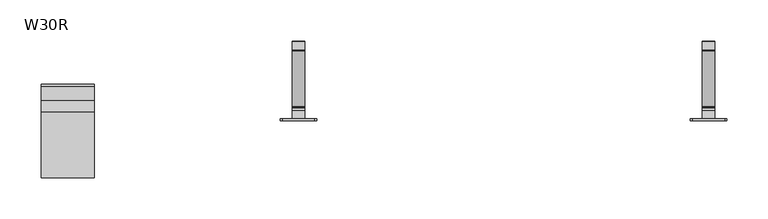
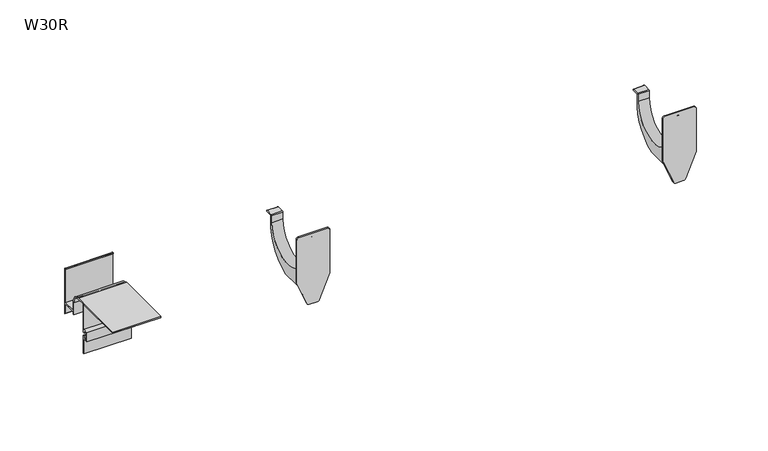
"""IFC4 building model written with IfcOpenShell, lengths in millimetres: proxy geometry, W30R Profil okapowy prosty z rynną : W30R."""

from ifc_helpers import new_model, si_unit, point, frame, frame_2d, origin, place, context, project, spatial, polyline, circle_curve, trimmed, segment, composite_curve, outline, extrude, source, transform, mapped, element, save
from ifc_brep_helpers import plane_surface, cylinder_surface, revolved_surface, advanced_brep


def w30r_580a4935(model_context):
    return source(origin(), model_context, "Body", "SolidModel", [
        advanced_brep(
        [(806.4889281, 43.253125, -67.3579557), (806.4889281, 43.253125, -57.4654849), (806.4889281, 44.253125, -56.4654849), (806.4889281, 54.253125, -56.4654849), (806.4889281, 54.253125, -58.4654849), (806.4889281, 45.753125, -58.4654849), (806.4889281, 45.753125, -62.0548341), (806.4889281, 45.753125, -76.6748546), (806.4889281, 11.253125, -121.4654849), (806.4889281, -39.746875, -121.4650625), (806.4889281, -39.746875, -46.4650625), (806.4889281, -29.746875, -46.4650625), (806.4889281, -26.9184479, -47.6366354), (806.4889281, -25.5042343, -49.0508489), (806.4889281, -26.9184479, -50.4650625), (806.4889281, -28.3326614, -49.0508489), (806.4889281, -33.746875, -48.4650699), (806.4889281, -31.746875, -67.3579557), (821.4889281, 43.253125, -67.3579557), (821.4889281, -31.746875, -67.3579557), (821.4889281, -33.746875, -48.4650699), (821.4889281, -28.3326614, -49.0508489), (821.4889281, -26.9184479, -50.4650625), (821.4889281, -25.5042343, -49.0508489), (821.4889281, -26.9184479, -47.6366354), (821.4889281, -29.746875, -46.4650625), (821.4889281, -39.746875, -46.4650625), (821.4889281, -39.746875, -121.4650625), (821.4889281, 11.253125, -121.4654849), (821.4889281, 45.753125, -76.6748546), (821.4889281, 45.753125, -62.0548341), (821.4889281, 45.753125, -58.4654849), (821.4889281, 54.253125, -58.4654849), (821.4889281, 54.253125, -56.4654849), (821.4889281, 44.253125, -56.4654849), (821.4889281, 43.253125, -57.4654849), (833.4889281, -39.746875, -33.4650625), (836.4889281, -39.746875, -36.4650625), (836.4889281, -39.746875, -98.4650625), (822.2581588, -39.746875, -132.6189087), (819.4889281, -39.746875, -134.4650625), (808.4889281, -39.746875, -134.4650625), (805.7196973, -39.746875, -132.6189087), (791.4889281, -39.746875, -98.4650625), (791.4889281, -39.746875, -36.4650625), (794.4889281, -39.746875, -33.4650625), (833.4889281, -41.746875, -33.4650625), (794.4889281, -41.746875, -33.4650625), (791.4889281, -41.746875, -36.4650625), (791.4889281, -41.746875, -98.4650625), (805.7196973, -41.746875, -132.6189087), (808.4889281, -41.746875, -134.4650625), (819.4889281, -41.746875, -134.4650625), (822.2581588, -41.746875, -132.6189087), (836.4889281, -41.746875, -98.4650625), (836.4889281, -41.746875, -36.4650625)],
        [
            (0, 1),
            (1, 2, circle_curve(frame((806.4889281, 44.253125, -57.4654849), z_axis=(-1.0, 0.0, 0.0), x_axis=(0.0, 1.0, 0.0)), 1.0)),
            (2, 3),
            (3, 4, circle_curve(frame((806.4889281, 54.253125, -57.4654849), z_axis=(-1.0, 0.0, 0.0), x_axis=(0.0, 1.0, 0.0)), 1.0)),
            (4, 5),
            (5, 6),
            (6, 7),
            (7, 8, circle_curve(frame((806.4889281, -6.9272146, -71.7799373), z_axis=(-1.0, 0.0, 0.0), x_axis=(0.0, 1.0, 0.0)), 52.9072622)),
            (8, 9),
            (9, 10),
            (10, 11),
            (11, 12, circle_curve(frame((806.4889281, -29.746875, -50.4650625), z_axis=(-1.0, 0.0, 0.0), x_axis=(0.0, 1.0, 0.0)), 4.0)),
            (12, 13),
            (13, 14, circle_curve(frame((806.4889281, -26.2113411, -49.7579557), z_axis=(-1.0, 0.0, 0.0), x_axis=(0.0, 1.0, 0.0)), 1.0)),
            (14, 15),
            (15, 16, circle_curve(frame((806.4889281, -32.9075381, -66.0213045), z_axis=(1.0, 0.0, 0.0), x_axis=(0.0, 1.0, 0.0)), 17.5762868)),
            (16, 17),
            (17, 0, circle_curve(frame((806.4889281, 5.753125, -67.3579557), z_axis=(1.0, 0.0, 0.0), x_axis=(0.0, 1.0, 0.0)), 37.5)),
            (18, 19, circle_curve(frame((821.4889281, 5.753125, -67.3579557), z_axis=(-1.0, 0.0, 0.0), x_axis=(0.0, 1.0, 0.0)), 37.5)),
            (19, 20),
            (20, 21, circle_curve(frame((821.4889281, -32.9075381, -66.0213045), z_axis=(-1.0, 0.0, 0.0), x_axis=(0.0, 1.0, 0.0)), 17.5762868)),
            (21, 22),
            (22, 23, circle_curve(frame((821.4889281, -26.2113411, -49.7579557), z_axis=(1.0, 0.0, 0.0), x_axis=(0.0, 1.0, 0.0)), 1.0)),
            (23, 24),
            (24, 25, circle_curve(frame((821.4889281, -29.746875, -50.4650625), z_axis=(1.0, 0.0, 0.0), x_axis=(0.0, 1.0, 0.0)), 4.0)),
            (25, 26),
            (26, 27),
            (27, 28),
            (28, 29, circle_curve(frame((821.4889281, -6.9272146, -71.7799373), z_axis=(1.0, 0.0, 0.0), x_axis=(0.0, 1.0, 0.0)), 52.9072622)),
            (29, 30),
            (30, 31),
            (31, 32),
            (32, 33, circle_curve(frame((821.4889281, 54.253125, -57.4654849), z_axis=(1.0, 0.0, 0.0), x_axis=(0.0, 1.0, 0.0)), 1.0)),
            (33, 34),
            (34, 35, circle_curve(frame((821.4889281, 44.253125, -57.4654849), z_axis=(1.0, 0.0, 0.0), x_axis=(0.0, 1.0, 0.0)), 1.0)),
            (35, 18),
            (0, 18),
            (35, 1),
            (34, 2),
            (33, 3),
            (32, 4),
            (31, 5),
            (30, 6),
            (29, 7),
            (28, 8),
            (27, 9),
            (10, 26),
            (25, 11),
            (24, 12),
            (23, 13),
            (22, 14),
            (21, 15),
            (20, 16),
            (19, 17),
            (36, 37, circle_curve(frame((833.4889281, -39.746875, -36.4650625), z_axis=(0.0, 1.0, 0.0), x_axis=(1.0, 0.0, 0.0)), 3.0)),
            (37, 38),
            (38, 39),
            (39, 40, circle_curve(frame((819.4889281, -39.746875, -131.4650625), z_axis=(0.0, 1.0, 0.0), x_axis=(1.0, 0.0, 0.0)), 3.0)),
            (40, 41),
            (41, 42, circle_curve(frame((808.4889281, -39.746875, -131.4650625), z_axis=(0.0, 1.0, 0.0), x_axis=(1.0, 0.0, 0.0)), 3.0)),
            (42, 43),
            (43, 44),
            (44, 45, circle_curve(frame((794.4889281, -39.746875, -36.4650625), z_axis=(0.0, 1.0, 0.0), x_axis=(1.0, 0.0, 0.0)), 3.0)),
            (45, 36),
            (46, 47),
            (47, 48, circle_curve(frame((794.4889281, -41.746875, -36.4650625), z_axis=(0.0, -1.0, 0.0), x_axis=(1.0, 0.0, 0.0)), 3.0)),
            (48, 49),
            (49, 50),
            (50, 51, circle_curve(frame((808.4889281, -41.746875, -131.4650625), z_axis=(0.0, -1.0, 0.0), x_axis=(1.0, 0.0, 0.0)), 3.0)),
            (51, 52),
            (52, 53, circle_curve(frame((819.4889281, -41.746875, -131.4650625), z_axis=(0.0, -1.0, 0.0), x_axis=(1.0, 0.0, 0.0)), 3.0)),
            (53, 54),
            (54, 55),
            (55, 46, circle_curve(frame((833.4889281, -41.746875, -36.4650625), z_axis=(0.0, -1.0, 0.0), x_axis=(1.0, 0.0, 0.0)), 3.0)),
            (45, 47),
            (46, 36),
            (44, 48),
            (43, 49),
            (42, 50),
            (41, 51),
            (40, 52),
            (39, 53),
            (38, 54),
            (37, 55),
        ],
        [
            plane_surface(frame((806.4889281, 43.253125, -57.4654849), z_axis=(-1.0, 0.0, 0.0), x_axis=(0.0, 0.0, -1.0))),
            plane_surface(frame((821.4889281, 43.253125, -57.4654849), z_axis=(1.0, 0.0, 0.0), x_axis=(0.0, 0.0, 1.0))),
            plane_surface(frame((821.4889281, 43.253125, -67.3579557), z_axis=(0.0, -1.0, 0.0), x_axis=(-1.0, 0.0, 0.0))),
            cylinder_surface(frame((806.4889281, 44.253125, -57.4654849), z_axis=(1.0, 0.0, 0.0), x_axis=(0.0, 1.0, 0.0)), 1.0),
            plane_surface(frame((821.4889281, 44.253125, -56.4654849), z_axis=(0.0, 0.0, 1.0), x_axis=(-1.0, 0.0, 0.0))),
            cylinder_surface(frame((806.4889281, 54.253125, -57.4654849), z_axis=(1.0, 0.0, 0.0), x_axis=(0.0, 1.0, 0.0)), 1.0),
            plane_surface(frame((821.4889281, 54.253125, -58.4654849), z_axis=(0.0, 0.0, -1.0), x_axis=(-1.0, 0.0, 0.0))),
            plane_surface(frame((821.4889281, 45.753125, -58.4654849), z_axis=(0.0, 1.0, 0.0), x_axis=(-1.0, 0.0, 0.0))),
            plane_surface(frame((821.4889281, 45.753125, -62.0548341), z_axis=(0.0, 1.0, 0.0), x_axis=(-1.0, 0.0, 0.0))),
            cylinder_surface(frame((806.4889281, -6.9272146, -71.7799373), z_axis=(1.0, 0.0, 0.0), x_axis=(0.0, 1.0, 0.0)), 52.9072622),
            plane_surface(frame((821.4889281, 11.253125, -121.4654849), z_axis=(0.0, -8.283194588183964e-06, -0.9999999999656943), x_axis=(-1.0, 0.0, 0.0))),
            plane_surface(frame((821.4889281, -40.7901639, -46.4650625), z_axis=(0.0, 0.0, 1.0), x_axis=(-1.0, 0.0, 0.0))),
            cylinder_surface(frame((806.4889281, -29.746875, -50.4650625), z_axis=(1.0, 0.0, 0.0), x_axis=(0.0, 1.0, 0.0)), 4.0),
            plane_surface(frame((821.4889281, -26.9184479, -47.6366354), z_axis=(0.0, 0.7071067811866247, 0.7071067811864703), x_axis=(-1.0, 0.0, 0.0))),
            cylinder_surface(frame((806.4889281, -26.2113411, -49.7579557), z_axis=(1.0, 0.0, 0.0), x_axis=(0.0, 1.0, 0.0)), 1.0),
            plane_surface(frame((821.4889281, -26.9184479, -50.4650625), z_axis=(0.0, -0.7071067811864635, -0.7071067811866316), x_axis=(-1.0, 0.0, 0.0))),
            revolved_surface(polyline([(806.4889281, -15.331251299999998, -66.0213045), (821.4889281, -15.331251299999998, -66.0213045)]), (806.4889281, -32.9075381, -66.0213045), (-1.0, 0.0, 0.0)),
            plane_surface(frame((821.4889281, -33.746875, -48.4650699), z_axis=(0.0, 0.9944434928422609, 0.10527174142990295), x_axis=(-1.0, 0.0, 0.0))),
            revolved_surface(polyline([(806.4889281, 43.253125, -67.3579557), (821.4889281, 43.253125, -67.3579557)]), (806.4889281, 5.753125, -67.3579557), (-1.0, 0.0, 0.0)),
            plane_surface(frame((794.4889281, -39.746875, -33.4650625), z_axis=(0.0, 1.0, 0.0), x_axis=(-1.0, 0.0, 0.0))),
            plane_surface(frame((794.4889281, -41.746875, -33.4650625), z_axis=(0.0, -1.0, 0.0), x_axis=(1.0, 0.0, 0.0))),
            plane_surface(frame((833.4889281, -39.746875, -33.4650625), z_axis=(0.0, 0.0, 1.0), x_axis=(0.0, -1.0, 0.0))),
            cylinder_surface(frame((794.4889281, -41.746875, -36.4650625), z_axis=(0.0, 1.0, 0.0), x_axis=(1.0, 0.0, 0.0)), 3.0),
            plane_surface(frame((791.4889281, -39.746875, -36.4650625), z_axis=(-1.0, 0.0, 0.0), x_axis=(0.0, -1.0, 0.0))),
            plane_surface(frame((791.4889281, -39.746875, -98.4650625), z_axis=(-0.9230769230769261, 0.0, -0.38461538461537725), x_axis=(0.0, -1.0, 0.0))),
            cylinder_surface(frame((808.4889281, -41.746875, -131.4650625), z_axis=(0.0, 1.0, 0.0), x_axis=(1.0, 0.0, 0.0)), 3.0),
            plane_surface(frame((808.4889281, -39.746875, -134.4650625), z_axis=(0.0, 0.0, -1.0), x_axis=(0.0, -1.0, 0.0))),
            cylinder_surface(frame((819.4889281, -41.746875, -131.4650625), z_axis=(0.0, 1.0, 0.0), x_axis=(1.0, 0.0, 0.0)), 3.0),
            plane_surface(frame((822.2581588, -39.746875, -132.6189087), z_axis=(0.9230769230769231, 0.0, -0.3846153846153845), x_axis=(0.0, -1.0, 0.0))),
            plane_surface(frame((836.4889281, -39.746875, -98.4650625), z_axis=(1.0, 0.0, 0.0), x_axis=(0.0, -1.0, 0.0))),
            cylinder_surface(frame((833.4889281, -41.746875, -36.4650625), z_axis=(0.0, 1.0, 0.0), x_axis=(1.0, 0.0, 0.0)), 3.0),
        ],
        [
            (0, [[1, 2, 3, 4, 5, 6, 7, 8, 9, 10, 11, 12, 13, 14, 15, 16, 17, 18]]),
            (1, [[19, 20, 21, 22, 23, 24, 25, 26, 27, 28, 29, 30, 31, 32, 33, 34, 35, 36]]),
            (2, [[37, -36, 38, -1]]),
            (3, [[-38, -35, 39, -2]]),
            (4, [[-39, -34, 40, -3]]),
            (5, [[-40, -33, 41, -4]]),
            (6, [[-41, -32, 42, -5]]),
            (7, [[-42, -31, 43, -6]]),
            (8, [[-43, -30, 44, -7]]),
            (9, [[-44, -29, 45, -8]]),
            (10, [[-28, 46, -9, -45]]),
            (11, [[-11, 47, -26, 48]]),
            (12, [[-48, -25, 49, -12]]),
            (13, [[-49, -24, 50, -13]]),
            (14, [[-50, -23, 51, -14]]),
            (15, [[-51, -22, 52, -15]]),
            (16, [[-52, -21, 53, -16]]),
            (17, [[-53, -20, 54, -17]]),
            (18, [[-54, -19, -37, -18]]),
            (19, [[55, 56, 57, 58, 59, 60, 61, 62, 63, 64], [-46, -27, -47, -10]]),
            (20, [[65, 66, 67, 68, 69, 70, 71, 72, 73, 74]]),
            (21, [[75, -65, 76, -64]]),
            (22, [[77, -66, -75, -63]]),
            (23, [[78, -67, -77, -62]]),
            (24, [[79, -68, -78, -61]]),
            (25, [[80, -69, -79, -60]]),
            (26, [[81, -70, -80, -59]]),
            (27, [[82, -71, -81, -58]]),
            (28, [[83, -72, -82, -57]]),
            (29, [[84, -73, -83, -56]]),
            (30, [[-76, -74, -84, -55]]),
        ],
    ),
        advanced_brep(
        [(306.4889281, 43.253125, -67.3579557), (306.4889281, 43.253125, -57.4654849), (306.4889281, 44.253125, -56.4654849), (306.4889281, 54.253125, -56.4654849), (306.4889281, 54.253125, -58.4654849), (306.4889281, 45.753125, -58.4654849), (306.4889281, 45.753125, -62.0548341), (306.4889281, 45.753125, -76.6748546), (306.4889281, 11.253125, -121.4654849), (306.4889281, -39.746875, -121.4650625), (306.4889281, -39.746875, -46.4650625), (306.4889281, -29.746875, -46.4650625), (306.4889281, -26.9184479, -47.6366354), (306.4889281, -25.5042343, -49.0508489), (306.4889281, -26.9184479, -50.4650625), (306.4889281, -28.3326614, -49.0508489), (306.4889281, -33.746875, -48.4650699), (306.4889281, -31.746875, -67.3579557), (321.4889281, 43.253125, -67.3579557), (321.4889281, -31.746875, -67.3579557), (321.4889281, -33.746875, -48.4650699), (321.4889281, -28.3326614, -49.0508489), (321.4889281, -26.9184479, -50.4650625), (321.4889281, -25.5042343, -49.0508489), (321.4889281, -26.9184479, -47.6366354), (321.4889281, -29.746875, -46.4650625), (321.4889281, -39.746875, -46.4650625), (321.4889281, -39.746875, -121.4650625), (321.4889281, 11.253125, -121.4654849), (321.4889281, 45.753125, -76.6748546), (321.4889281, 45.753125, -62.0548341), (321.4889281, 45.753125, -58.4654849), (321.4889281, 54.253125, -58.4654849), (321.4889281, 54.253125, -56.4654849), (321.4889281, 44.253125, -56.4654849), (321.4889281, 43.253125, -57.4654849), (333.4889281, -39.746875, -33.4650625), (336.4889281, -39.746875, -36.4650625), (336.4889281, -39.746875, -98.4650625), (322.2581588, -39.746875, -132.6189087), (319.4889281, -39.746875, -134.4650625), (308.4889281, -39.746875, -134.4650625), (305.7196973, -39.746875, -132.6189087), (291.4889281, -39.746875, -98.4650625), (291.4889281, -39.746875, -36.4650625), (294.4889281, -39.746875, -33.4650625), (333.4889281, -41.746875, -33.4650625), (294.4889281, -41.746875, -33.4650625), (291.4889281, -41.746875, -36.4650625), (291.4889281, -41.746875, -98.4650625), (305.7196973, -41.746875, -132.6189087), (308.4889281, -41.746875, -134.4650625), (319.4889281, -41.746875, -134.4650625), (322.2581588, -41.746875, -132.6189087), (336.4889281, -41.746875, -98.4650625), (336.4889281, -41.746875, -36.4650625)],
        [
            (0, 1),
            (1, 2, circle_curve(frame((306.4889281, 44.253125, -57.4654849), z_axis=(-1.0, 0.0, 0.0), x_axis=(0.0, 1.0, 0.0)), 1.0)),
            (2, 3),
            (3, 4, circle_curve(frame((306.4889281, 54.253125, -57.4654849), z_axis=(-1.0, 0.0, 0.0), x_axis=(0.0, 1.0, 0.0)), 1.0)),
            (4, 5),
            (5, 6),
            (6, 7),
            (7, 8, circle_curve(frame((306.4889281, -6.9272146, -71.7799373), z_axis=(-1.0, 0.0, 0.0), x_axis=(0.0, 1.0, 0.0)), 52.9072622)),
            (8, 9),
            (9, 10),
            (10, 11),
            (11, 12, circle_curve(frame((306.4889281, -29.746875, -50.4650625), z_axis=(-1.0, 0.0, 0.0), x_axis=(0.0, 1.0, 0.0)), 4.0)),
            (12, 13),
            (13, 14, circle_curve(frame((306.4889281, -26.2113411, -49.7579557), z_axis=(-1.0, 0.0, 0.0), x_axis=(0.0, 1.0, 0.0)), 1.0)),
            (14, 15),
            (15, 16, circle_curve(frame((306.4889281, -32.9075381, -66.0213045), z_axis=(1.0, 0.0, 0.0), x_axis=(0.0, 1.0, 0.0)), 17.5762868)),
            (16, 17),
            (17, 0, circle_curve(frame((306.4889281, 5.753125, -67.3579557), z_axis=(1.0, 0.0, 0.0), x_axis=(0.0, 1.0, 0.0)), 37.5)),
            (18, 19, circle_curve(frame((321.4889281, 5.753125, -67.3579557), z_axis=(-1.0, 0.0, 0.0), x_axis=(0.0, 1.0, 0.0)), 37.5)),
            (19, 20),
            (20, 21, circle_curve(frame((321.4889281, -32.9075381, -66.0213045), z_axis=(-1.0, 0.0, 0.0), x_axis=(0.0, 1.0, 0.0)), 17.5762868)),
            (21, 22),
            (22, 23, circle_curve(frame((321.4889281, -26.2113411, -49.7579557), z_axis=(1.0, 0.0, 0.0), x_axis=(0.0, 1.0, 0.0)), 1.0)),
            (23, 24),
            (24, 25, circle_curve(frame((321.4889281, -29.746875, -50.4650625), z_axis=(1.0, 0.0, 0.0), x_axis=(0.0, 1.0, 0.0)), 4.0)),
            (25, 26),
            (26, 27),
            (27, 28),
            (28, 29, circle_curve(frame((321.4889281, -6.9272146, -71.7799373), z_axis=(1.0, 0.0, 0.0), x_axis=(0.0, 1.0, 0.0)), 52.9072622)),
            (29, 30),
            (30, 31),
            (31, 32),
            (32, 33, circle_curve(frame((321.4889281, 54.253125, -57.4654849), z_axis=(1.0, 0.0, 0.0), x_axis=(0.0, 1.0, 0.0)), 1.0)),
            (33, 34),
            (34, 35, circle_curve(frame((321.4889281, 44.253125, -57.4654849), z_axis=(1.0, 0.0, 0.0), x_axis=(0.0, 1.0, 0.0)), 1.0)),
            (35, 18),
            (0, 18),
            (35, 1),
            (34, 2),
            (33, 3),
            (32, 4),
            (31, 5),
            (30, 6),
            (29, 7),
            (28, 8),
            (27, 9),
            (10, 26),
            (25, 11),
            (24, 12),
            (23, 13),
            (22, 14),
            (21, 15),
            (20, 16),
            (19, 17),
            (36, 37, circle_curve(frame((333.4889281, -39.746875, -36.4650625), z_axis=(0.0, 1.0, 0.0), x_axis=(1.0, 0.0, 0.0)), 3.0)),
            (37, 38),
            (38, 39),
            (39, 40, circle_curve(frame((319.4889281, -39.746875, -131.4650625), z_axis=(0.0, 1.0, 0.0), x_axis=(1.0, 0.0, 0.0)), 3.0)),
            (40, 41),
            (41, 42, circle_curve(frame((308.4889281, -39.746875, -131.4650625), z_axis=(0.0, 1.0, 0.0), x_axis=(1.0, 0.0, 0.0)), 3.0)),
            (42, 43),
            (43, 44),
            (44, 45, circle_curve(frame((294.4889281, -39.746875, -36.4650625), z_axis=(0.0, 1.0, 0.0), x_axis=(1.0, 0.0, 0.0)), 3.0)),
            (45, 36),
            (46, 47),
            (47, 48, circle_curve(frame((294.4889281, -41.746875, -36.4650625), z_axis=(0.0, -1.0, 0.0), x_axis=(1.0, 0.0, 0.0)), 3.0)),
            (48, 49),
            (49, 50),
            (50, 51, circle_curve(frame((308.4889281, -41.746875, -131.4650625), z_axis=(0.0, -1.0, 0.0), x_axis=(1.0, 0.0, 0.0)), 3.0)),
            (51, 52),
            (52, 53, circle_curve(frame((319.4889281, -41.746875, -131.4650625), z_axis=(0.0, -1.0, 0.0), x_axis=(1.0, 0.0, 0.0)), 3.0)),
            (53, 54),
            (54, 55),
            (55, 46, circle_curve(frame((333.4889281, -41.746875, -36.4650625), z_axis=(0.0, -1.0, 0.0), x_axis=(1.0, 0.0, 0.0)), 3.0)),
            (45, 47),
            (46, 36),
            (44, 48),
            (43, 49),
            (42, 50),
            (41, 51),
            (40, 52),
            (39, 53),
            (38, 54),
            (37, 55),
        ],
        [
            plane_surface(frame((306.4889281, 43.253125, -57.4654849), z_axis=(-1.0, 0.0, 0.0), x_axis=(0.0, 0.0, -1.0))),
            plane_surface(frame((321.4889281, 43.253125, -57.4654849), z_axis=(1.0, 0.0, 0.0), x_axis=(0.0, 0.0, 1.0))),
            plane_surface(frame((321.4889281, 43.253125, -67.3579557), z_axis=(0.0, -1.0, 0.0), x_axis=(-1.0, 0.0, 0.0))),
            cylinder_surface(frame((306.4889281, 44.253125, -57.4654849), z_axis=(1.0, 0.0, 0.0), x_axis=(0.0, 1.0, 0.0)), 1.0),
            plane_surface(frame((321.4889281, 44.253125, -56.4654849), z_axis=(0.0, 0.0, 1.0), x_axis=(-1.0, 0.0, 0.0))),
            cylinder_surface(frame((306.4889281, 54.253125, -57.4654849), z_axis=(1.0, 0.0, 0.0), x_axis=(0.0, 1.0, 0.0)), 1.0),
            plane_surface(frame((321.4889281, 54.253125, -58.4654849), z_axis=(0.0, 0.0, -1.0), x_axis=(-1.0, 0.0, 0.0))),
            plane_surface(frame((321.4889281, 45.753125, -58.4654849), z_axis=(0.0, 1.0, 0.0), x_axis=(-1.0, 0.0, 0.0))),
            plane_surface(frame((321.4889281, 45.753125, -62.0548341), z_axis=(0.0, 1.0, 0.0), x_axis=(-1.0, 0.0, 0.0))),
            cylinder_surface(frame((306.4889281, -6.9272146, -71.7799373), z_axis=(1.0, 0.0, 0.0), x_axis=(0.0, 1.0, 0.0)), 52.9072622),
            plane_surface(frame((321.4889281, 11.253125, -121.4654849), z_axis=(0.0, -8.283194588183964e-06, -0.9999999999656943), x_axis=(-1.0, 0.0, 0.0))),
            plane_surface(frame((321.4889281, -40.7901639, -46.4650625), z_axis=(0.0, 0.0, 1.0), x_axis=(-1.0, 0.0, 0.0))),
            cylinder_surface(frame((306.4889281, -29.746875, -50.4650625), z_axis=(1.0, 0.0, 0.0), x_axis=(0.0, 1.0, 0.0)), 4.0),
            plane_surface(frame((321.4889281, -26.9184479, -47.6366354), z_axis=(0.0, 0.7071067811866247, 0.7071067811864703), x_axis=(-1.0, 0.0, 0.0))),
            cylinder_surface(frame((306.4889281, -26.2113411, -49.7579557), z_axis=(1.0, 0.0, 0.0), x_axis=(0.0, 1.0, 0.0)), 1.0),
            plane_surface(frame((321.4889281, -26.9184479, -50.4650625), z_axis=(0.0, -0.7071067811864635, -0.7071067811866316), x_axis=(-1.0, 0.0, 0.0))),
            revolved_surface(polyline([(306.4889281, -15.331251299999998, -66.0213045), (321.4889281, -15.331251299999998, -66.0213045)]), (306.4889281, -32.9075381, -66.0213045), (-1.0, 0.0, 0.0)),
            plane_surface(frame((321.4889281, -33.746875, -48.4650699), z_axis=(0.0, 0.9944434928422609, 0.10527174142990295), x_axis=(-1.0, 0.0, 0.0))),
            revolved_surface(polyline([(306.4889281, 43.253125, -67.3579557), (321.4889281, 43.253125, -67.3579557)]), (306.4889281, 5.753125, -67.3579557), (-1.0, 0.0, 0.0)),
            plane_surface(frame((294.4889281, -39.746875, -33.4650625), z_axis=(0.0, 1.0, 0.0), x_axis=(-1.0, 0.0, 0.0))),
            plane_surface(frame((294.4889281, -41.746875, -33.4650625), z_axis=(0.0, -1.0, 0.0), x_axis=(1.0, 0.0, 0.0))),
            plane_surface(frame((333.4889281, -39.746875, -33.4650625), z_axis=(0.0, 0.0, 1.0), x_axis=(0.0, -1.0, 0.0))),
            cylinder_surface(frame((294.4889281, -41.746875, -36.4650625), z_axis=(0.0, 1.0, 0.0), x_axis=(1.0, 0.0, 0.0)), 3.0),
            plane_surface(frame((291.4889281, -39.746875, -36.4650625), z_axis=(-1.0, 0.0, 0.0), x_axis=(0.0, -1.0, 0.0))),
            plane_surface(frame((291.4889281, -39.746875, -98.4650625), z_axis=(-0.9230769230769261, 0.0, -0.38461538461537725), x_axis=(0.0, -1.0, 0.0))),
            cylinder_surface(frame((308.4889281, -41.746875, -131.4650625), z_axis=(0.0, 1.0, 0.0), x_axis=(1.0, 0.0, 0.0)), 3.0),
            plane_surface(frame((308.4889281, -39.746875, -134.4650625), z_axis=(0.0, 0.0, -1.0), x_axis=(0.0, -1.0, 0.0))),
            cylinder_surface(frame((319.4889281, -41.746875, -131.4650625), z_axis=(0.0, 1.0, 0.0), x_axis=(1.0, 0.0, 0.0)), 3.0),
            plane_surface(frame((322.2581588, -39.746875, -132.6189087), z_axis=(0.9230769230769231, 0.0, -0.3846153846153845), x_axis=(0.0, -1.0, 0.0))),
            plane_surface(frame((336.4889281, -39.746875, -98.4650625), z_axis=(1.0, 0.0, 0.0), x_axis=(0.0, -1.0, 0.0))),
            cylinder_surface(frame((333.4889281, -41.746875, -36.4650625), z_axis=(0.0, 1.0, 0.0), x_axis=(1.0, 0.0, 0.0)), 3.0),
        ],
        [
            (0, [[1, 2, 3, 4, 5, 6, 7, 8, 9, 10, 11, 12, 13, 14, 15, 16, 17, 18]]),
            (1, [[19, 20, 21, 22, 23, 24, 25, 26, 27, 28, 29, 30, 31, 32, 33, 34, 35, 36]]),
            (2, [[37, -36, 38, -1]]),
            (3, [[-38, -35, 39, -2]]),
            (4, [[-39, -34, 40, -3]]),
            (5, [[-40, -33, 41, -4]]),
            (6, [[-41, -32, 42, -5]]),
            (7, [[-42, -31, 43, -6]]),
            (8, [[-43, -30, 44, -7]]),
            (9, [[-44, -29, 45, -8]]),
            (10, [[-28, 46, -9, -45]]),
            (11, [[-11, 47, -26, 48]]),
            (12, [[-48, -25, 49, -12]]),
            (13, [[-49, -24, 50, -13]]),
            (14, [[-50, -23, 51, -14]]),
            (15, [[-51, -22, 52, -15]]),
            (16, [[-52, -21, 53, -16]]),
            (17, [[-53, -20, 54, -17]]),
            (18, [[-54, -19, -37, -18]]),
            (19, [[55, 56, 57, 58, 59, 60, 61, 62, 63, 64], [-46, -27, -47, -10]]),
            (20, [[65, 66, 67, 68, 69, 70, 71, 72, 73, 74]]),
            (21, [[75, -65, 76, -64]]),
            (22, [[77, -66, -75, -63]]),
            (23, [[78, -67, -77, -62]]),
            (24, [[79, -68, -78, -61]]),
            (25, [[80, -69, -79, -60]]),
            (26, [[81, -70, -80, -59]]),
            (27, [[82, -71, -81, -58]]),
            (28, [[83, -72, -82, -57]]),
            (29, [[84, -73, -83, -56]]),
            (30, [[-76, -74, -84, -55]]),
        ],
    ),
        extrude(outline(composite_curve([segment(polyline([(-41.76, -66.726163), (-43.76, -66.726163), (-43.76, -63.126163), (-48.96, -63.126163), (-48.96, -74.326163), (-43.76, -74.326163), (-43.76, -70.726163), (-41.76, -70.726163), (-41.76, -97.190163), (-43.04, -97.190163), (-43.04, -75.526163), (-50.32, -75.526163), (-50.32, -61.926163), (-43.12, -61.926163), (-43.12, -25.926163), (-111.68, -25.926163), (-111.68, -24.006163), (-31.36, -24.006163)]), True, "CONTINUOUS"), segment(trimmed(circle_curve(frame_2d((-31.36, -37.606163)), 13.6), [point((-31.36, -24.006163))], [point((-17.76, -37.606163))], False, "CARTESIAN"), True, "CONTINUOUS"), segment(polyline([(-17.76, -37.606163), (-17.76, -49.846163), (0.8, -49.846163), (0.8, -2.2327357)]), True, "CONTINUOUS"), segment(trimmed(circle_curve(frame_2d((0.0, -2.2327357)), 0.8), [point((0.8, -2.2327357))], [point((0.0, -1.4327357))], True, "CARTESIAN"), True, "CONTINUOUS"), segment(polyline([(0.0, -1.4327357), (0.0, 0.0)]), True, "CONTINUOUS"), segment(trimmed(circle_curve(frame_2d((0.0, -2.24)), 2.24), [point((0.0, 0.0))], [point((2.24, -2.24))], False, "CARTESIAN"), True, "CONTINUOUS"), segment(polyline([(2.24, -2.24), (2.24, -66.416302), (1.04, -65.216302), (1.04, -51.766163), (-17.76, -51.766163), (-17.76, -55.0930368), (-19.68, -55.0930368), (-19.68, -37.606163)]), True, "CONTINUOUS"), segment(trimmed(circle_curve(frame_2d((-31.36, -37.606163)), 11.68), [point((-19.68, -37.606163))], [point((-31.36, -25.926163))], True, "CARTESIAN"), True, "CONTINUOUS"), segment(polyline([(-31.36, -25.926163), (-41.76, -25.926163), (-41.76, -66.726163)]), True, "CONTINUOUS")], self_intersect=False)), frame((0.0, 0.0, 0.0), z_axis=(1.0, 0.0, 0.0), x_axis=(0.0, 1.0, 0.0)), (0.0, 0.0, 1.0), 65.0),
    ])


if __name__ == "__main__":
    model = new_model("IFC4")
    model_context = context("Model", 3, world=origin())
    ifc_project = project(units=[si_unit("LENGTHUNIT", "METRE", prefix="MILLI")], contexts=[model_context])
    site = spatial("IfcSite", under=ifc_project)
    building = spatial("IfcBuilding", under=site)
    placement = place(None, origin())
    w30r_shape = w30r_580a4935(model_context)
    element("IfcBuildingElementProxy", 1, Name="W30R Profil okapowy prosty z rynną : W30R", ObjectType="W30R Profil okapowy prosty z rynną : W30R", at=placement, inside=building, context=model_context, shape_type="MappedRepresentation", body=[
        mapped(w30r_shape, transform((0.0, 0.0, 0.0), x_axis=(1.0, 0.0, 0.0), y_axis=(0.0, 1.0, 0.0), z_axis=(0.0, 0.0, 1.0))),
    ])
    save(model, "model.ifc")
